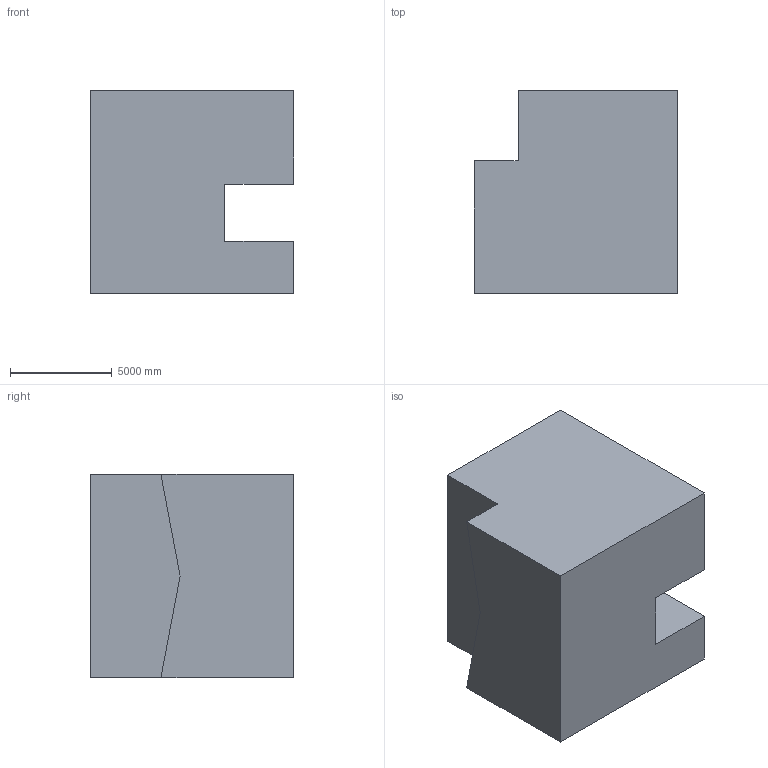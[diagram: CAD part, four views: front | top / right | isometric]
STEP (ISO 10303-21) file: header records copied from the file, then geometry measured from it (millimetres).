
FILE_DESCRIPTION (( 'STEP AP203' ), '1' );
FILE_NAME ('1113.STEP', '2022-08-18T12:48:46', ( 'user' ), ( '' ), 'SwSTEP 2.0', 'SolidWorks 2021', '' );
FILE_SCHEMA (( 'CONFIG_CONTROL_DESIGN' ));
Length unit declared in the file: centimetre
Products named in the file (1): 1113
Bounding box: 10000 x 10000 x 10000 mm (x, y, z)
Volume: 820097592827.6 mm3; surface area: 634196187.4 mm2
Topology: 1 solids, 1 shells, 13 faces, 33 edges, 22 vertices
Faces by surface type: plane 13
Entity records: 464 total; most frequent: CARTESIAN_POINT 69, ORIENTED_EDGE 66, DIRECTION 61, VECTOR 33, EDGE_CURVE 33, LINE 33, VERTEX_POINT 22, AXIS2_PLACEMENT_3D 14
